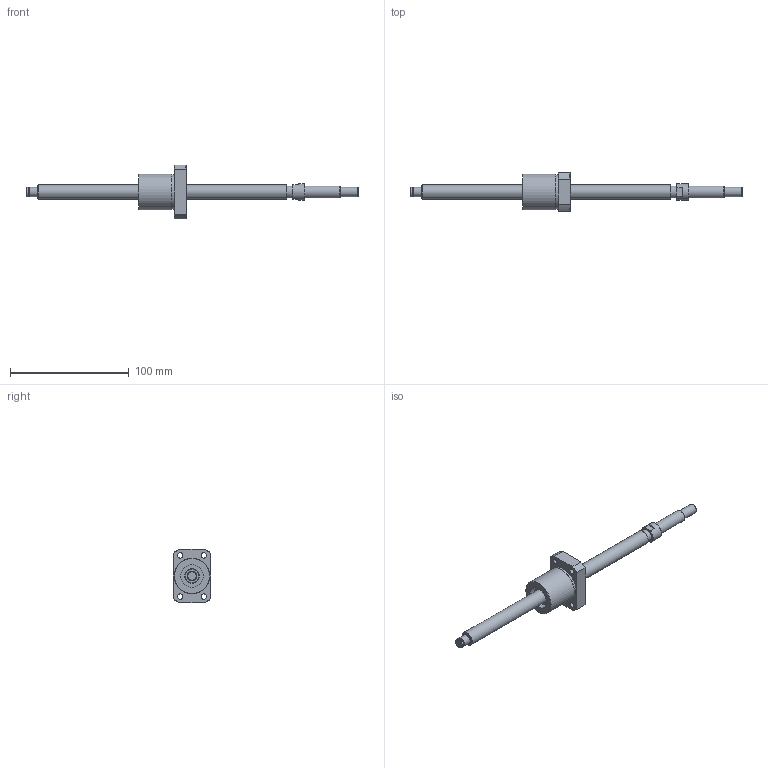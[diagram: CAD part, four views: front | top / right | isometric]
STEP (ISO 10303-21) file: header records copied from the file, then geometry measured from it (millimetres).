
FILE_DESCRIPTION(/* description */ ('STEP AP203'),/* implementation_level */ '2;1');
FILE_NAME(/* name */ 'BNK1205-2.5RRG0+280LC5Y(1250)',/* time_stamp */ '2024-07-09T09:09:20+02:00',/* author */ ('License CC BY-ND 4.0'),/* organization */ ('CADENAS'),/* preprocessor_version */ 'ST-DEVELOPER v19.3',/* originating_system */ 'PARTsolutions',/* authorisation */ ' ');
FILE_SCHEMA (('CONFIG_CONTROL_DESIGN'));
Length unit declared in the file: millimetre
Products named in the file (3): BNK1205-2.5RRG0+280LC5Y(1250); BNK 1205-2.5RRG0+280LC5Y Shaft; BNK 1205-2.5RRG0+280LC5YRR0 Nut
Assembly tree (2 placements, depth 2):
  BNK1205-2.5RRG0+280LC5Y(1250)
    BNK 1205-2.5RRG0+280LC5Y Shaft
    BNK 1205-2.5RRG0+280LC5YRR0 Nut
Bounding box: 280 x 32 x 45 mm (x, y, z)
Volume: 56693 mm3; surface area: 19850.6 mm2
Topology: 2 solids, 2 shells, 76 faces, 159 edges, 102 vertices
Faces by surface type: plane 29, cylinder 29, cone 16, torus 2
Full cylindrical faces by diameter (mm): 3 x3, 4.5 x4, 4.917 x1, 7.6 x1, 8 x7, 10 x2, 12 x2, 14 x1, 19 x2, 29.4 x1, 30 x1
Entity records: 1976 total; most frequent: CARTESIAN_POINT 386, DIRECTION 332, ORIENTED_EDGE 236, AXIS2_PLACEMENT_3D 154, FACE_BOUND 141, EDGE_LOOP 140, EDGE_CURVE 118, VERTEX_POINT 99
